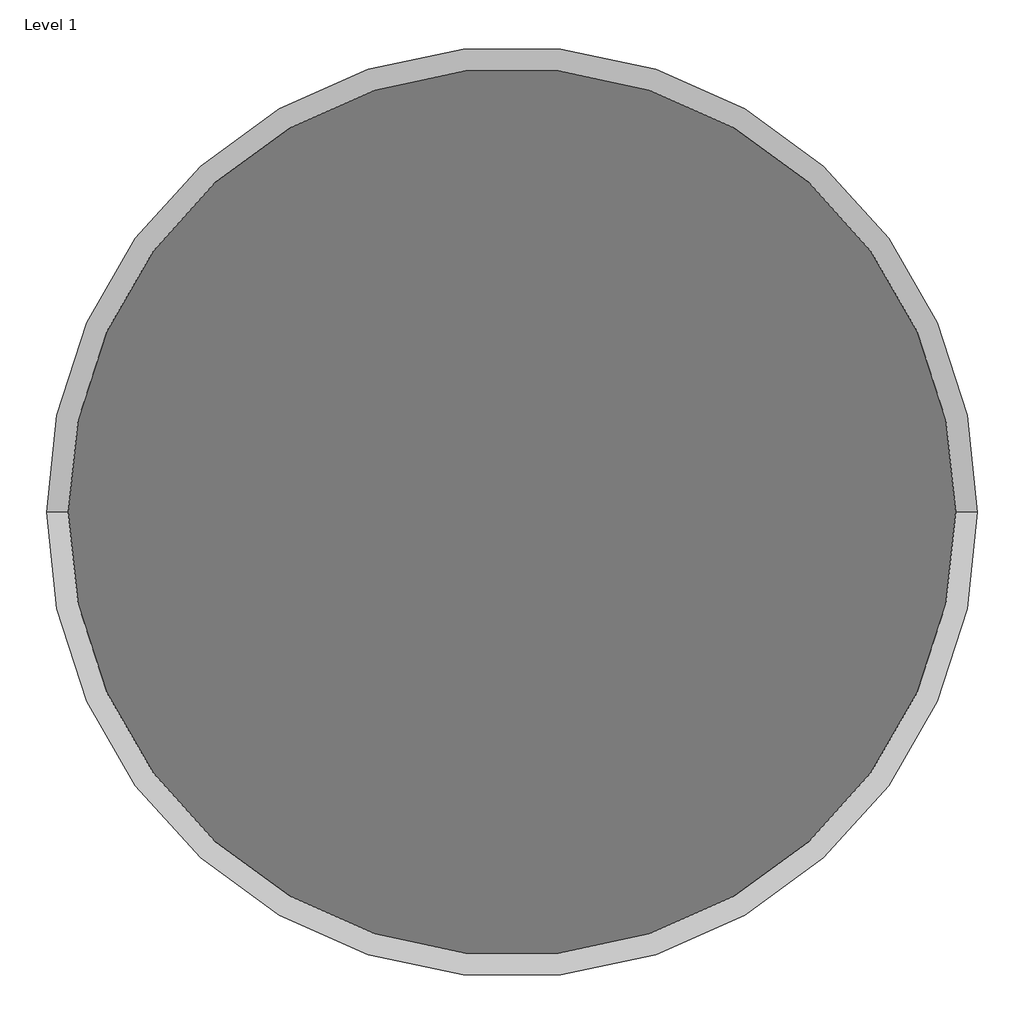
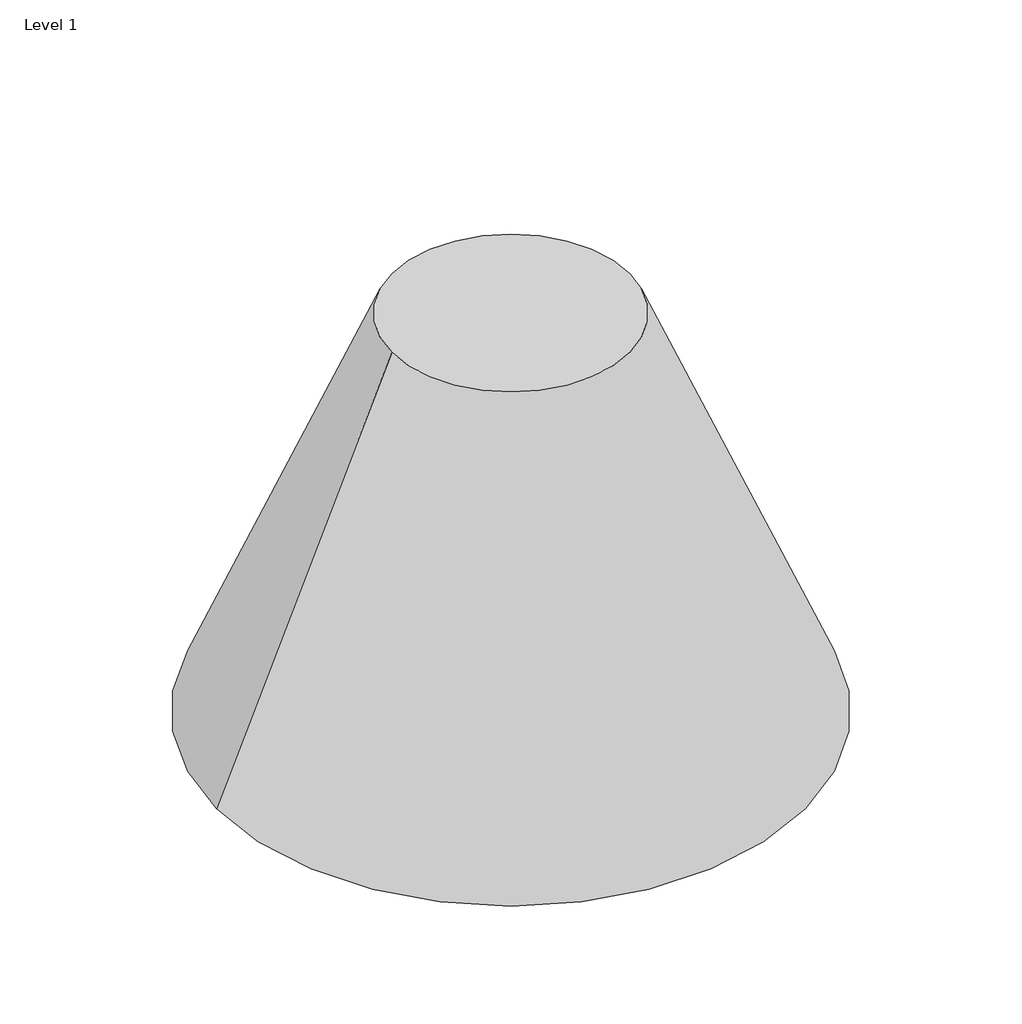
# One storey: 1 proxy.
"""IFC4 building model written with IfcOpenShell, lengths in millimetres."""

from ifc_helpers import new_model, si_unit, frame, origin, place, context, project, spatial, polyline, circle_curve, element, save
from ifc_brep_helpers import plane_surface, revolved_surface, advanced_brep

model = new_model("IFC4")

# Units and contexts
model_context = context("Model", 3, world=origin())
ifc_project = project(units=[si_unit("LENGTHUNIT", "METRE", prefix="MILLI")], contexts=[model_context])

# Site, building, storey
site = spatial("IfcSite", under=ifc_project)
building = spatial("IfcBuilding", under=site)
storey = spatial("IfcBuildingStorey", under=building, Name="Level 1", Elevation=0.0)

# Proxy
placement = place(None, origin())
element("IfcBuildingElementProxy", 1, Name="Mass 1 : Mass 1", ObjectType="Mass 1 : Mass 1", at=placement, inside=storey, context=model_context, shape_type="AdvancedBrep", body=[
    advanced_brep(
    [(-5848.4547919, 1398.7872577, 15240.0), (2772.5910843, 1398.7872577, 15240.0), (-12205.9318538, 1398.7872577, 0.0), (9130.0681462, 1398.7872577, 0.0)],
    [
        (0, 1, circle_curve(frame((-1537.9318538, 1398.7872577, 15240.0), z_axis=(0.0, 0.0, 1.0), x_axis=(-1.0, 0.0, 0.0)), 4310.5229381)),
        (1, 0, circle_curve(frame((-1537.9318538, 1398.7872577, 15240.0), z_axis=(0.0, 0.0, 1.0), x_axis=(1.0, 0.0, 0.0)), 4310.5229381)),
        (2, 3, circle_curve(frame((-1537.9318538, 1398.7872577, 0.0), z_axis=(0.0, 0.0, -1.0), x_axis=(1.0, 0.0, 0.0)), 10668.0)),
        (3, 2, circle_curve(frame((-1537.9318538, 1398.7872577, 0.0), z_axis=(0.0, 0.0, -1.0), x_axis=(-1.0, 0.0, 0.0)), 10668.0)),
        (3, 1),
        (0, 2),
    ],
    [
        plane_surface(frame((-1537.9318538, 1398.7872577, 15240.0), z_axis=(0.0, 0.0, 1.0), x_axis=(0.0, -1.0, 0.0))),
        plane_surface(frame((-1537.9318538, 1398.7872577, 0.0), z_axis=(0.0, 0.0, -1.0), x_axis=(0.0, -1.0, 0.0))),
        revolved_surface(polyline([(-5848.4547919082, 1398.7872577, 15240.0), (-12205.9318538, 1398.7872577, 0.0)]), (-1537.9318538, 1398.7872577, 25573.0879431), (0.0, 0.0, -1.0)),
        revolved_surface(polyline([(2772.5910843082, 1398.7872577, 15240.0), (9130.0681462, 1398.7872577, 0.0)]), (-1537.9318538, 1398.7872577, 25573.0879431), (0.0, 0.0, -1.0)),
    ],
    [
        (0, [[1, 2]]),
        (1, [[3, 4]]),
        (2, [[-4, 5, -1, 6]]),
        (3, [[-3, -6, -2, -5]]),
    ],
),
])

save(model, "model.ifc")
